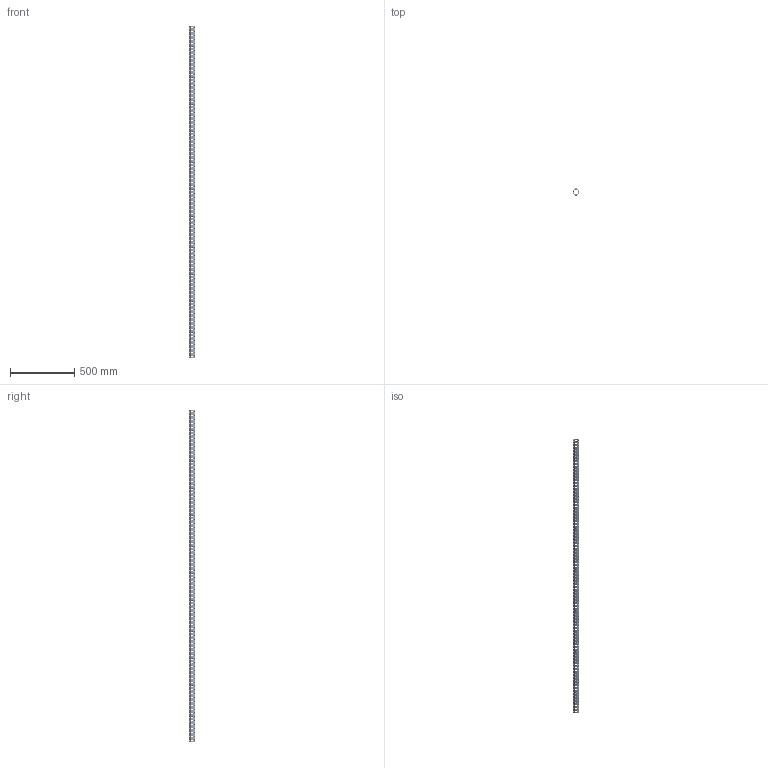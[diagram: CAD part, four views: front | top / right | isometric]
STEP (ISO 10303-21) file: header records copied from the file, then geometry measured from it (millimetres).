
FILE_DESCRIPTION(('CATIA V5 STEP Exchange'),'2;1');
FILE_NAME('U:\Room\唐宝山\EGT002\46-01-010315-01-EGT002-2578.stp','2021-08-24T02:14:31+00:00',('none'),('none'),'CATIA Version 5 Release 21 GA (IN-10)','CATIA V5 STEP AP203','none');
FILE_SCHEMA(('CONFIG_CONTROL_DESIGN'));
Products named in the file (1): 46-01-010315-01-EGT002-2578
Bounding box: 50 x 50 x 2578 mm (x, y, z)
Volume: 1836883.5 mm3; surface area: 885063.5 mm2
Topology: 1 solids, 1 shells, 3524 faces, 9706 edges, 6012 vertices
Faces by surface type: cone 2064, cylinder 1434, plane 26
Entity records: 143644 total; most frequent: CARTESIAN_POINT 58233, ORIENTED_EDGE 19412, DIRECTION 13771, EDGE_CURVE 9706, AXIS2_PLACEMENT_3D 6506, VERTEX_POINT 6012, EDGE_LOOP 4730, VECTOR 3742
